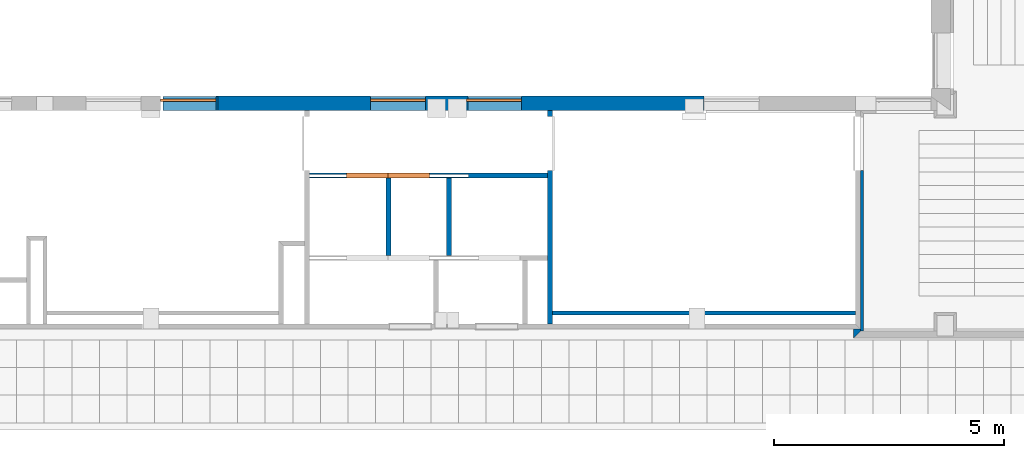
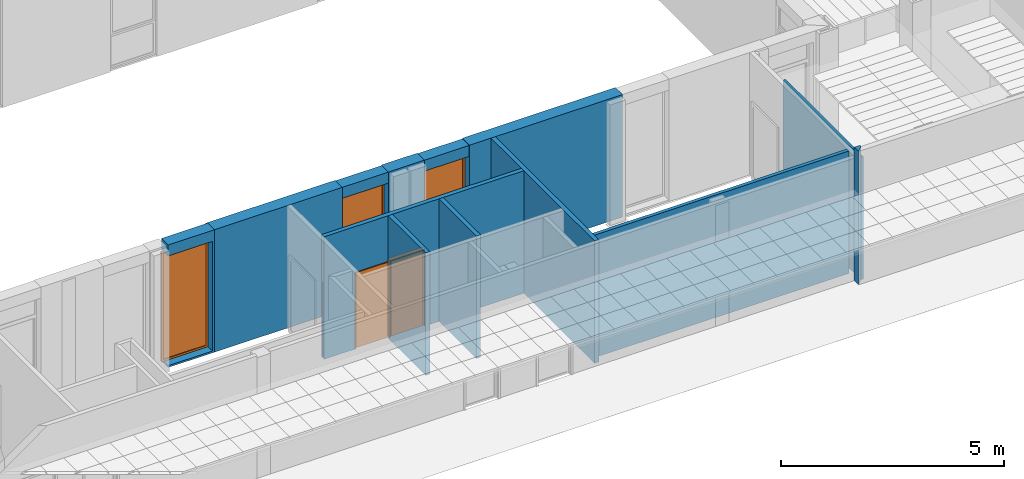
# One storey, part 30 of 60: 13 walls, 5 proxies, 6 openings.
"""IFC2X3 building model written with IfcOpenShell, lengths in millimetres."""

from ifc_helpers import new_model, entity, si_unit, converted_unit, derived_unit, money_unit, direction, frame, origin_with_axes, origin_2d_with_axis, place, context, subcontext, project, spatial, polyline, rectangle, outline, extrude, open_shell, faceted_brep, surface_model, source, transform, mapped, material, layer, layer_set, layer_usage, type_object, element, fill, save


model = new_model("IFC2X3")

# Units and contexts
model_context = context("Model", 3, precision=0.01, world=origin_with_axes(), true_north=direction((0.0, 1.0)))
body_context = subcontext(model_context, "Body", "Model", "MODEL_VIEW")
ifc_project = project(units=[si_unit("LENGTHUNIT", "METRE", prefix="MILLI"), si_unit("AREAUNIT", "SQUARE_METRE"), si_unit("VOLUMEUNIT", "CUBIC_METRE"), converted_unit("PLANEANGLEUNIT", "DEGREE", entity("IfcPlaneAngleMeasure", 0.0174532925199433), si_unit("PLANEANGLEUNIT", "RADIAN"), dimensions=[0, 0, 0, 0, 0, 0, 0]), money_unit("USD"), converted_unit("TIMEUNIT", "Year", entity("IfcTimeMeasure", 31557600.0), si_unit("TIMEUNIT", "SECOND"), dimensions=[0, 0, 1, 0, 0, 0, 0]), si_unit("MASSUNIT", "GRAM", prefix="KILO"), si_unit("THERMODYNAMICTEMPERATUREUNIT", "DEGREE_CELSIUS"), si_unit("LUMINOUSINTENSITYUNIT", "LUMEN"), si_unit("ENERGYUNIT", "JOULE", prefix="MEGA"), derived_unit("THERMALCONDUCTANCEUNIT", [(si_unit("POWERUNIT", "WATT"), 1), (si_unit("LENGTHUNIT", "METRE"), -1), (si_unit("THERMODYNAMICTEMPERATUREUNIT", "KELVIN"), -1)]), derived_unit("SPECIFICHEATCAPACITYUNIT", [(si_unit("ENERGYUNIT", "JOULE"), 1), (si_unit("MASSUNIT", "GRAM", prefix="KILO"), -1), (si_unit("THERMODYNAMICTEMPERATUREUNIT", "KELVIN"), -1)]), derived_unit("MASSDENSITYUNIT", [(si_unit("MASSUNIT", "GRAM", prefix="KILO"), 1), (si_unit("VOLUMEUNIT", "CUBIC_METRE"), -1)])], contexts=[model_context])

# Site, building, storey
site_placement = place(None, origin_with_axes())
site = spatial("IfcSite", under=ifc_project, at=site_placement, Name="Sitio", CompositionType="ELEMENT")
building_placement = place(site_placement, origin_with_axes())
building = spatial("IfcBuilding", under=site, at=building_placement, Name="Construcción", CompositionType="ELEMENT")
storey_placement = place(building_placement, frame((0.0, 0.0, 3650.0), z_axis=(0.0, 0.0, 1.0), x_axis=(1.0, 0.0, 0.0)))
storey = spatial("IfcBuildingStorey", under=building, at=storey_placement, Name="PLANTA 2ª", CompositionType="ELEMENT", Elevation=3650.0)

# Wall, opening, proxy
ifc_material_1 = material(Name="ARQ_AM246_Arrebossat_De_Guix")
ifc_layer_1 = layer(ifc_material_1, 20.0, ventilated="UNKNOWN")
ifc_material_2 = material(Name="ARQ_CE217_Gero")
ifc_layer_2 = layer(ifc_material_2, 110.0, ventilated="UNKNOWN")
ifc_material_3 = material(Name="ARQ_AI031_Aillament_Poliestireno expandido EPS")
ifc_layer_3 = layer(ifc_material_3, 100.0, ventilated="UNKNOWN")
ifc_material_4 = material(Name="ARQ_CE218_Ceramic")
ifc_layer_4 = layer(ifc_material_4, 50.0, ventilated="UNKNOWN")
ifc_layer_5 = layer(ifc_material_1, 20.0, ventilated="UNKNOWN")
ifc_layer_set_1 = layer_set([ifc_layer_1, ifc_layer_2, ifc_layer_3, ifc_layer_4, ifc_layer_5], Name="façana pati CR3 (ampit)")
ifc_layer_usage_1 = layer_usage(ifc_layer_set_1, "AXIS2", "POSITIVE", -300.0000000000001)
wall_type_1 = type_object("IfcWallType", Name="façana pati CR3 (ampit) 300", PredefinedType="NOTDEFINED")
wall_1_placement = place(storey_placement, frame((-17595.38048777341, -12338.97582371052, 0.0), z_axis=(0.0, 0.0, 1.0), x_axis=(-1.0, 0.0, 0.0)))
wall_1 = element("IfcWallStandardCase", 1, at=wall_1_placement, inside=storey, type_object=wall_type_1, material=ifc_layer_usage_1, Name="MS-201", context=body_context, shape_type="SweptSolid", body=[
    extrude(outline(polyline([(0.0, -300.0000000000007), (1194.999999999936, -300.0000000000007), (1194.999999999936, 0.0), (0.0, 0.0), (0.0, -300.0000000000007)])), origin_with_axes(), (0.0, 0.0, 1.0), 3350.0),
])
opening_1_placement = place(wall_1_placement, frame((645.728517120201, 0.0, 49.99999999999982), z_axis=(0.0, 0.0, 1.0), x_axis=(1.0, 0.0, 0.0)))
opening_1 = element("IfcOpeningElement", 2, at=opening_1_placement, cuts=wall_1, Name="V - 008", context=body_context, shape_type="SweptSolid", body=[
    extrude(rectangle(XDim=1200.000000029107, YDim=3000.0, at=origin_2d_with_axis()), frame((0.0, -250.0, 1500.0), z_axis=(0.0, -1.0, 0.0), x_axis=(-1.0, 0.0, 0.0)), (0.0, 0.0, -1.0), 550.0),
    extrude(rectangle(XDim=1200.000000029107, YDim=3000.0, at=origin_2d_with_axis()), frame((0.0, -250.0, 1500.0), z_axis=(0.0, 1.0, 0.0), x_axis=(-1.0, 0.0, 0.0)), (0.0, 0.0, -1.0), 350.0000000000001),
])
building_element_proxy_type_1 = type_object("IfcBuildingElementProxyType", Name="Ventana Vertical Multi-Faja 27", PredefinedType="NOTDEFINED")
shared_shape_1 = source(origin_with_axes(), body_context, "Body", "SurfaceModel", [
    faceted_brep([(-550.0000000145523, -50.00000000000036, 2950.0), (-550.0000000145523, 0.0, 2950.0), (-600.0000000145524, 0.0, 2950.0), (-600.0000000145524, -50.00000000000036, 2950.0), (-550.0000000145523, -50.00000000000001, 50.0), (-550.0000000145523, 0.0, 50.00000000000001), (-600.0000000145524, 0.0, 50.00000000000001), (-600.0000000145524, -50.00000000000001, 50.0)], [[[0, 1, 2, 3]], [[4, 5, 1, 0]], [[1, 5, 6, 2]], [[3, 2, 6, 7]], [[0, 3, 7, 4]], [[7, 6, 5, 4]]]),
    faceted_brep([(550.0000000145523, -50.00000000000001, 50.0), (550.0000000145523, 0.0, 50.00000000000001), (600.0000000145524, 0.0, 50.00000000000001), (600.0000000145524, -50.00000000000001, 50.0), (550.0000000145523, -50.00000000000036, 2950.0), (550.0000000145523, 0.0, 2950.0), (600.0000000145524, 0.0, 2950.0), (600.0000000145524, -50.00000000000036, 2950.0)], [[[0, 1, 2, 3]], [[4, 5, 1, 0]], [[1, 5, 6, 2]], [[3, 2, 6, 7]], [[0, 3, 7, 4]], [[7, 6, 5, 4]]]),
    faceted_brep([(550.0000000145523, -50.00000000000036, 2950.0), (550.0000000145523, 0.0, 2950.0), (600.0000000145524, 0.0, 2950.0), (600.0000000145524, -50.00000000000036, 2950.0), (-550.0000000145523, -50.00000000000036, 2950.0), (-550.0000000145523, 0.0, 2950.0), (-600.0000000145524, 0.0, 2950.0), (-600.0000000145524, 0.0, 3000.0), (600.0000000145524, 0.0, 3000.0), (600.0000000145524, -50.00000000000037, 3000.0), (-600.0000000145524, -50.00000000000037, 3000.0), (-600.0000000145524, -50.00000000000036, 2950.0)], [[[0, 1, 2, 3]], [[4, 5, 1, 0]], [[1, 5, 6, 7, 8, 2]], [[3, 2, 8, 9]], [[0, 3, 9, 10, 11, 4]], [[11, 6, 5, 4]], [[10, 7, 6, 11]], [[9, 8, 7, 10]]]),
    faceted_brep([(-550.0000000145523, -50.00000000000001, 50.0), (-550.0000000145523, 0.0, 50.00000000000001), (-600.0000000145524, 0.0, 50.00000000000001), (-600.0000000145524, -50.00000000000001, 50.0), (550.0000000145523, -50.00000000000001, 50.0), (550.0000000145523, 0.0, 50.00000000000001), (600.0000000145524, 0.0, 50.00000000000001), (600.0000000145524, 0.0, 0.0), (-600.0000000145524, 0.0, 0.0), (-600.0000000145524, -50.0, 0.0), (600.0000000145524, -50.0, 0.0), (600.0000000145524, -50.00000000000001, 50.0)], [[[0, 1, 2, 3]], [[4, 5, 1, 0]], [[1, 5, 6, 7, 8, 2]], [[3, 2, 8, 9]], [[0, 3, 9, 10, 11, 4]], [[11, 6, 5, 4]], [[10, 7, 6, 11]], [[9, 8, 7, 10]]]),
    surface_model("IfcShellBasedSurfaceModel", [(-550.0000000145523, -35.0, 49.99999999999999), (550.0000000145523, -35.0, 49.99999999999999), (550.0000000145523, -35.00000000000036, 2950.0), (-550.0000000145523, -35.00000000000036, 2950.0)], [open_shell([[[0, 1, 2, 3]]])]),
    surface_model("IfcShellBasedSurfaceModel", [(-550.0000000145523, -15.0, 49.99999999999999), (-550.0000000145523, -15.00000000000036, 2950.0), (550.0000000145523, -15.00000000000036, 2950.0), (550.0000000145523, -15.0, 49.99999999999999)], [open_shell([[[0, 1, 2, 3]]])]),
])
proxy_1_placement = place(opening_1_placement, frame((600.0000000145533, 0.0, 0.0), z_axis=(0.0, 0.0, 1.0), x_axis=(-1.0, 0.0, 0.0)))
proxy_1 = element("IfcBuildingElementProxy", 3, at=proxy_1_placement, inside=storey, type_object=building_element_proxy_type_1, Name="V - 008", context=body_context, shape_type="MappedRepresentation", body=[
    mapped(shared_shape_1, transform((600.0000000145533, 250.0, 0.0))),
])
fill(opening_1, proxy_1)

ifc_layer_usage_2 = layer_usage(ifc_layer_set_1, "AXIS2", "POSITIVE", -300.0000000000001)
wall_2_placement = place(storey_placement, frame((-11002.41799369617, -12338.97582371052, 0.0), z_axis=(0.0, 0.0, 1.0), x_axis=(-1.0, 0.0, 0.0)))
wall_2 = element("IfcWallStandardCase", 4, at=wall_2_placement, inside=storey, type_object=wall_type_1, material=ifc_layer_usage_2, Name="MS-201", context=body_context, shape_type="SweptSolid", body=[
    extrude(outline(polyline([(0.0, -300.0000000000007), (1194.999999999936, -300.0000000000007), (1194.999999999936, 0.0), (0.0, 0.0), (0.0, -300.0000000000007)])), origin_with_axes(), (0.0, 0.0, 1.0), 3350.0),
])
opening_2_placement = place(wall_2_placement, frame((594.9999999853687, 0.0, 49.99999999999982), z_axis=(0.0, 0.0, 1.0), x_axis=(1.0, 0.0, 0.0)))
opening_2 = element("IfcOpeningElement", 5, at=opening_2_placement, cuts=wall_2, Name="V - 008", context=body_context, shape_type="SweptSolid", body=[
    extrude(rectangle(XDim=1200.000000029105, YDim=3000.0, at=origin_2d_with_axis()), frame((0.0, -250.0, 1500.0), z_axis=(0.0, -1.0, 0.0), x_axis=(-1.0, 0.0, 0.0)), (0.0, 0.0, -1.0), 550.0),
    extrude(rectangle(XDim=1200.000000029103, YDim=3000.0, at=origin_2d_with_axis()), frame((0.0, -250.0, 1500.0), z_axis=(0.0, 1.0, 0.0), x_axis=(-1.0, 0.0, 0.0)), (0.0, 0.0, -1.0), 350.0000000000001),
])
proxy_2_placement = place(opening_2_placement, frame((600.0000000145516, 0.0, 0.0), z_axis=(0.0, 0.0, 1.0), x_axis=(-1.0, 0.0, 0.0)))
proxy_2 = element("IfcBuildingElementProxy", 6, at=proxy_2_placement, inside=storey, type_object=building_element_proxy_type_1, Name="V - 008", context=body_context, shape_type="MappedRepresentation", body=[
    mapped(shared_shape_1, transform((600.0000000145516, 250.0, 0.0))),
])
fill(opening_2, proxy_2)

ifc_layer_usage_3 = layer_usage(ifc_layer_set_1, "AXIS2", "POSITIVE", -300.0000000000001)
wall_3_placement = place(storey_placement, frame((-13091.10900490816, -12338.97582371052, 0.0), z_axis=(0.0, 0.0, 1.0), x_axis=(-1.0, 0.0, 0.0)))
wall_3 = element("IfcWallStandardCase", 7, at=wall_3_placement, inside=storey, type_object=wall_type_1, material=ifc_layer_usage_3, Name="MS-201", context=body_context, shape_type="SweptSolid", body=[
    extrude(outline(polyline([(0.0, -300.0000000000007), (1194.999999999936, -300.0000000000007), (1194.999999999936, 0.0), (0.0, 0.0), (0.0, -300.0000000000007)])), origin_with_axes(), (0.0, 0.0, 1.0), 3350.0),
])
opening_3_placement = place(wall_3_placement, frame((594.9999999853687, 0.0, 49.99999999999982), z_axis=(0.0, 0.0, 1.0), x_axis=(1.0, 0.0, 0.0)))
opening_3 = element("IfcOpeningElement", 8, at=opening_3_placement, cuts=wall_3, Name="V - 008", context=body_context, shape_type="SweptSolid", body=[
    extrude(rectangle(XDim=1200.000000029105, YDim=3000.0, at=origin_2d_with_axis()), frame((0.0, -250.0, 1500.0), z_axis=(0.0, -1.0, 0.0), x_axis=(-1.0, 0.0, 0.0)), (0.0, 0.0, -1.0), 550.0),
    extrude(rectangle(XDim=1200.000000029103, YDim=3000.0, at=origin_2d_with_axis()), frame((0.0, -250.0, 1500.0), z_axis=(0.0, 1.0, 0.0), x_axis=(-1.0, 0.0, 0.0)), (0.0, 0.0, -1.0), 350.0000000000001),
])
proxy_3_placement = place(opening_3_placement, frame((600.0000000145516, 0.0, 0.0), z_axis=(0.0, 0.0, 1.0), x_axis=(-1.0, 0.0, 0.0)))
proxy_3 = element("IfcBuildingElementProxy", 9, at=proxy_3_placement, inside=storey, type_object=building_element_proxy_type_1, Name="V - 008", context=body_context, shape_type="MappedRepresentation", body=[
    mapped(shared_shape_1, transform((600.0000000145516, 250.0, 0.0))),
])
fill(opening_3, proxy_3)

# Walls
ifc_layer_6 = layer(ifc_material_2, 150.0, ventilated="UNKNOWN")
ifc_layer_7 = layer(ifc_material_3, 100.0, ventilated="UNKNOWN")
ifc_layer_8 = layer(ifc_material_4, 50.0, ventilated="UNKNOWN")
ifc_layer_9 = layer(ifc_material_1, 20.0, ventilated="UNKNOWN")
ifc_layer_set_2 = layer_set([ifc_layer_6, ifc_layer_7, ifc_layer_8, ifc_layer_9], Name="façana pati CR3")
ifc_layer_usage_4 = layer_usage(ifc_layer_set_2, "AXIS2", "POSITIVE", -320.0)
wall_type_2 = type_object("IfcWallType", Name="façana pati CR3 320", PredefinedType="NOTDEFINED")
wall_4_placement = place(storey_placement, frame((-7036.109004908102, -12338.97582371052, 0.0), z_axis=(0.0, 0.0, 1.0), x_axis=(-1.0, 0.0, 0.0)))
element("IfcWallStandardCase", 10, at=wall_4_placement, inside=storey, type_object=wall_type_2, material=ifc_layer_usage_4, Name="MS-201", context=body_context, shape_type="SweptSolid", body=[
    extrude(outline(polyline([(0.0, -320.0000000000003), (3961.308988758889, -320.0000000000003), (3961.308988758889, 0.0), (0.0, 0.0), (0.0, -320.0000000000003)])), origin_with_axes(), (0.0, 0.0, 1.0), 3350.0),
])
ifc_layer_usage_5 = layer_usage(ifc_layer_set_2, "AXIS2", "POSITIVE", -320.0)
wall_5_placement = place(storey_placement, frame((-12161.1090049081, -12338.97582371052, 0.0), z_axis=(0.0, 0.0, 1.0), x_axis=(-1.0, 0.0, 0.0)))
element("IfcWallStandardCase", 11, at=wall_5_placement, inside=storey, type_object=wall_type_2, material=ifc_layer_usage_5, Name="MS-201", context=body_context, shape_type="SweptSolid", body=[
    extrude(outline(polyline([(0.0, -320.0000000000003), (930.0000000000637, -320.0000000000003), (930.0000000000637, 0.0), (0.0, 0.0), (0.0, -320.0000000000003)])), origin_with_axes(), (0.0, 0.0, 1.0), 3350.0),
])
ifc_layer_usage_6 = layer_usage(ifc_layer_set_2, "AXIS2", "POSITIVE", -320.0)
wall_6_placement = place(storey_placement, frame((-14286.1090049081, -12338.97582371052, 0.0), z_axis=(0.0, 0.0, 1.0), x_axis=(-1.0, 0.0, 0.0)))
element("IfcWallStandardCase", 12, at=wall_6_placement, inside=storey, type_object=wall_type_2, material=ifc_layer_usage_6, Name="MS-201", context=body_context, shape_type="SweptSolid", body=[
    extrude(outline(polyline([(0.0, -320.0000000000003), (3355.000000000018, -320.0000000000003), (3355.000000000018, 0.0), (0.0, 0.0), (0.0, -320.0000000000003)])), origin_with_axes(), (0.0, 0.0, 1.0), 3350.0),
])
ifc_material_5 = material(Name="ARQ_FU093_Panellat_HPL")
ifc_layer_10 = layer(ifc_material_5, 6.0, ventilated="UNKNOWN")
ifc_material_6 = material(Name="ARQ_EN271_Camara_Aire")
ifc_layer_11 = layer(ifc_material_6, 6.0, ventilated="UNKNOWN")
ifc_material_7 = material(Name="Panel de Yeso Laminado")
ifc_layer_12 = layer(ifc_material_7, 13.0, ventilated="UNKNOWN")
ifc_material_8 = material(Name="ARQ_AI033_Aillament_Llana_De_Roca")
ifc_layer_13 = layer(ifc_material_8, 40.0, ventilated="UNKNOWN")
ifc_layer_set_3 = layer_set([ifc_layer_10, ifc_layer_11, ifc_layer_12, ifc_layer_13], Name="Pladur Tras 40 / 1N +HPL")
ifc_layer_usage_7 = layer_usage(ifc_layer_set_3, "AXIS2", "POSITIVE", 0.0)
wall_type_3 = type_object("IfcWallType", Name="Pladur Tras 40 / 1N +HPL 65", PredefinedType="NOTDEFINED")
wall_7_placement = place(storey_placement, frame((-3573.894203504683, -17276.97565901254, 0.0), z_axis=(0.0, 0.0, 1.0), x_axis=(0.0, 1.0, 0.0)))
element("IfcWallStandardCase", 13, at=wall_7_placement, inside=storey, type_object=wall_type_3, material=ifc_layer_usage_7, Name="MS-212", context=body_context, shape_type="SweptSolid", body=[
    extrude(outline(polyline([(146.0000000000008, 0.0), (3629.999670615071, 0.0), (3629.999670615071, 64.99999999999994), (146.0000000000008, 64.99999999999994), (146.0000000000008, 0.0)])), origin_with_axes(), (0.0, 0.0, 1.0), 3350.0),
])

# Wall, opening
ifc_layer_14 = layer(ifc_material_1, 10.0, ventilated="UNKNOWN")
ifc_layer_15 = layer(ifc_material_2, 90.0, ventilated="UNKNOWN")
ifc_layer_16 = layer(ifc_material_1, 10.0, ventilated="UNKNOWN")
ifc_layer_set_4 = layer_set([ifc_layer_14, ifc_layer_15, ifc_layer_16], Name="CR Enva Totxana")
ifc_layer_usage_8 = layer_usage(ifc_layer_set_4, "AXIS2", "POSITIVE", -110.0)
wall_type_4 = type_object("IfcWallType", Name="CR Enva Totxana 110", PredefinedType="NOTDEFINED")
wall_8_placement = place(storey_placement, frame((-10437.89402518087, -17083.97582371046, 0.0), z_axis=(0.0, 0.0, 1.0), x_axis=(0.0, 1.0, 0.0)))
wall_8 = element("IfcWallStandardCase", 14, at=wall_8_placement, inside=storey, type_object=wall_type_4, material=ifc_layer_usage_8, Name="MS-201", context=body_context, shape_type="SweptSolid", body=[
    extrude(outline(polyline([(109.9999999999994, -109.9999999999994), (4744.999999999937, -109.9999999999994), (4744.999999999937, 0.0), (109.9999999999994, 0.0), (109.9999999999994, -109.9999999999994)])), origin_with_axes(), (0.0, 0.0, 1.0), 3350.0),
])
opening_4_placement = place(wall_8_placement, frame((4023.999835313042, 0.0, 0.0), z_axis=(0.0, 0.0, 1.0), x_axis=(1.0, 0.0, 0.0)))
element("IfcOpeningElement", 15, at=opening_4_placement, cuts=wall_8, Name="PF-13D", context=body_context, shape_type="SweptSolid", body=[
    extrude(rectangle(XDim=1174.000000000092, YDim=2100.0, at=origin_2d_with_axis()), frame((0.0, -109.9999999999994, 1050.0), z_axis=(0.0, 1.0, 0.0), x_axis=(-1.0, 0.0, 0.0)), (0.0, 0.0, 1.0), 329.9999999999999),
])

# Wall
ifc_layer_usage_9 = layer_usage(ifc_layer_set_4, "AXIS2", "POSITIVE", -110.0)
wall_9_placement = place(storey_placement, frame((-13948.89521118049, -15599.37688161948, 0.0), z_axis=(0.0, 0.0, 1.0), x_axis=(0.0, 1.0, 0.0)))
element("IfcWallStandardCase", 16, at=wall_9_placement, inside=storey, type_object=wall_type_4, material=ifc_layer_usage_9, Name="MS-201", context=body_context, shape_type="SweptSolid", body=[
    extrude(outline(polyline([(109.9999999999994, -109.9999999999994), (1789.944777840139, -109.9999999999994), (1789.944777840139, 0.0), (109.9999999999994, 0.0), (109.9999999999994, -109.9999999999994)])), origin_with_axes(), (0.0, 0.0, 1.0), 3350.0),
])

# Wall, openings, proxies
ifc_layer_usage_10 = layer_usage(ifc_layer_set_4, "AXIS2", "POSITIVE", -110.0)
wall_10_placement = place(storey_placement, frame((-10437.89402518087, -13809.43210377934, 0.0), z_axis=(0.0, 0.0, 1.0), x_axis=(-1.0, 0.0, 0.0)))
wall_10 = element("IfcWallStandardCase", 17, at=wall_10_placement, inside=storey, type_object=wall_type_4, material=ifc_layer_usage_10, Name="MS-201", context=body_context, shape_type="SweptSolid", body=[
    extrude(outline(polyline([(0.0, -109.9999999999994), (5168.214979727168, -109.9999999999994), (5168.214979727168, 0.0), (0.0, 0.0), (0.0, -109.9999999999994)])), origin_with_axes(), (0.0, 0.0, 1.0), 3350.0),
])
opening_5_placement = place(wall_10_placement, frame((3912.625216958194, 0.0, 0.0), z_axis=(0.0, 0.0, 1.0), x_axis=(1.0, 0.0, 0.0)))
opening_5 = element("IfcOpeningElement", 18, at=opening_5_placement, cuts=wall_10, Name="PF-14D", context=body_context, shape_type="SweptSolid", body=[
    extrude(rectangle(XDim=899.9999999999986, YDim=2100.0, at=origin_2d_with_axis()), frame((0.0, 109.9999999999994, 1050.0), z_axis=(0.0, -1.0, 0.0), x_axis=(1.0, 0.0, 0.0)), (0.0, 0.0, 1.0), 329.9999999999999),
    extrude(rectangle(XDim=845.0000000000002, YDim=2080.0, at=origin_2d_with_axis()), frame((872.4999999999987, -29.99999999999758, 1040.0), z_axis=(0.0, -1.0, 0.0), x_axis=(1.0, 0.0, 0.0)), (0.0, 0.0, 1.0), 50.0),
])
opening_6_placement = place(wall_10_placement, frame((3012.625216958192, 0.0, 0.0), z_axis=(0.0, 0.0, 1.0), x_axis=(1.0, 0.0, 0.0)))
opening_6 = element("IfcOpeningElement", 19, at=opening_6_placement, cuts=wall_10, Name="PF-14D", context=body_context, shape_type="SweptSolid", body=[
    extrude(rectangle(XDim=899.9999999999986, YDim=2100.0, at=origin_2d_with_axis()), frame((0.0, 109.9999999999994, 1050.0), z_axis=(0.0, 1.0, 0.0), x_axis=(-1.0, 0.0, 0.0)), (0.0, 0.0, -1.0), 329.9999999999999),
    extrude(rectangle(XDim=845.0000000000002, YDim=2080.0, at=origin_2d_with_axis()), frame((-872.4999999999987, -29.99999999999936, 1040.0), z_axis=(0.0, 1.0, 0.0), x_axis=(-1.0, 0.0, 0.0)), (0.0, 0.0, -1.0), 50.0),
])
building_element_proxy_type_2 = type_object("IfcBuildingElementProxyType", Name="Puerta Corredera Empotrada 27", PredefinedType="NOTDEFINED")
shared_shape_2 = source(origin_with_axes(), body_context, "Body", "Brep", [
    faceted_brep([(450.0, 0.0, 0.0), (450.0, -110.0, 0.0), (430.0, -110.0, 0.0), (430.0, 0.0, 0.0), (450.0, 0.0, 2080.0), (450.0, -110.0, 2080.0), (430.0, -110.0, 2080.0), (430.0, 0.0, 2080.0)], [[[0, 1, 2, 3]], [[4, 5, 1, 0]], [[1, 5, 6, 2]], [[3, 2, 6, 7]], [[0, 3, 7, 4]], [[7, 6, 5, 4]]]),
    faceted_brep([(-430.0, -30.00000000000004, 2080.0), (-430.0, 0.0, 2080.0), (-450.0, 0.0, 2080.0), (-450.0, -30.00000000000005, 2080.0), (-430.0, -30.00000000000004, 0.0), (-430.0, 0.0, 0.0), (-450.0, 0.0, 0.0), (-450.0, -30.00000000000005, 0.0)], [[[0, 1, 2, 3]], [[4, 5, 1, 0]], [[5, 6, 2, 1]], [[3, 2, 6, 7]], [[7, 4, 0, 3]], [[7, 6, 5, 4]]]),
    faceted_brep([(-450.0, -80.00000000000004, 0.0), (-450.0, -110.0, 0.0), (-450.0, -110.0, 2080.0), (-450.0, -80.00000000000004, 2080.0), (-430.0, -80.00000000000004, 0.0), (-430.0, -110.0, 0.0), (-430.0, -110.0, 2080.0), (-430.0, -80.00000000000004, 2080.0)], [[[0, 1, 2, 3]], [[4, 5, 1, 0]], [[2, 1, 5, 6]], [[3, 2, 6, 7]], [[7, 4, 0, 3]], [[7, 6, 5, 4]]]),
    faceted_brep([(450.0, 0.0, 2100.0), (450.0, -110.0, 2100.0), (450.0, -110.0, 2080.0), (450.0, 0.0, 2080.0), (-450.0, 0.0, 2100.0), (-450.0, -110.0, 2100.0), (-450.0, -110.0, 2080.0), (-430.0, -110.0, 2080.0), (430.0, -110.0, 2080.0), (430.0, 0.0, 2080.0), (-430.0, 0.0, 2080.0), (-450.0, 0.0, 2080.0)], [[[0, 1, 2, 3]], [[4, 5, 1, 0]], [[1, 5, 6, 7, 8, 2]], [[3, 2, 8, 9]], [[0, 3, 9, 10, 11, 4]], [[11, 6, 5, 4]], [[10, 7, 6, 11]], [[9, 8, 7, 10]]]),
    faceted_brep([(-430.0, -34.99999999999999, 0.0), (430.0, -34.99999999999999, 0.0), (430.0, -74.99999999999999, 0.0), (-430.0, -74.99999999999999, 0.0), (-430.0, -35.00000000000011, 2080.0), (430.0, -35.00000000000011, 2080.0), (430.0, -75.00000000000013, 2080.0), (-430.0, -75.00000000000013, 2080.0)], [[[0, 1, 2, 3]], [[0, 4, 5, 1]], [[1, 5, 6, 2]], [[3, 2, 6, 7]], [[4, 0, 3, 7]], [[5, 4, 7, 6]]]),
])
proxy_4_placement = place(opening_6_placement, frame((-449.9999999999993, 0.0, 0.0), z_axis=(0.0, 0.0, 1.0), x_axis=(1.0, 0.0, 0.0)))
proxy_4 = element("IfcBuildingElementProxy", 20, at=proxy_4_placement, inside=storey, type_object=building_element_proxy_type_2, Name="PF-14D", context=body_context, shape_type="MappedRepresentation", body=[
    mapped(shared_shape_2, transform((449.9999999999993, 0.0, 0.0))),
])
fill(opening_6, proxy_4)
shared_shape_3 = source(origin_with_axes(), body_context, "Body", "Brep", [
    faceted_brep([(-450.0, 0.0, 0.0), (-430.0, 0.0, 0.0), (-430.0, -110.0, 0.0), (-450.0, -110.0, 0.0), (-450.0, 0.0, 2080.0), (-430.0, 0.0, 2080.0), (-430.0, -110.0, 2080.0), (-450.0, -110.0, 2080.0)], [[[0, 1, 2, 3]], [[0, 4, 5, 1]], [[1, 5, 6, 2]], [[3, 2, 6, 7]], [[4, 0, 3, 7]], [[5, 4, 7, 6]]]),
    faceted_brep([(430.0, -30.00000000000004, 2080.0), (450.0, -30.00000000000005, 2080.0), (450.0, 0.0, 2080.0), (430.0, 0.0, 2080.0), (450.0, -30.00000000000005, 0.0), (430.0, -30.00000000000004, 0.0), (450.0, 0.0, 0.0), (430.0, 0.0, 0.0)], [[[0, 1, 2, 3]], [[4, 1, 0, 5]], [[1, 4, 6, 2]], [[7, 3, 2, 6]], [[5, 0, 3, 7]], [[4, 5, 7, 6]]]),
    faceted_brep([(450.0, -80.00000000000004, 0.0), (450.0, -80.00000000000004, 2080.0), (450.0, -110.0, 2080.0), (450.0, -110.0, 0.0), (430.0, -80.00000000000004, 2080.0), (430.0, -80.00000000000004, 0.0), (430.0, -110.0, 2080.0), (430.0, -110.0, 0.0)], [[[0, 1, 2, 3]], [[4, 1, 0, 5]], [[1, 4, 6, 2]], [[2, 6, 7, 3]], [[5, 0, 3, 7]], [[4, 5, 7, 6]]]),
    faceted_brep([(-450.0, 0.0, 2100.0), (-450.0, 0.0, 2080.0), (-450.0, -110.0, 2080.0), (-450.0, -110.0, 2100.0), (450.0, 0.0, 2100.0), (450.0, 0.0, 2080.0), (430.0, 0.0, 2080.0), (-430.0, 0.0, 2080.0), (-430.0, -110.0, 2080.0), (430.0, -110.0, 2080.0), (450.0, -110.0, 2080.0), (450.0, -110.0, 2100.0)], [[[0, 1, 2, 3]], [[0, 4, 5, 6, 7, 1]], [[1, 7, 8, 2]], [[3, 2, 8, 9, 10, 11]], [[4, 0, 3, 11]], [[5, 4, 11, 10]], [[6, 5, 10, 9]], [[7, 6, 9, 8]]]),
    faceted_brep([(430.0, -34.99999999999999, 0.0), (430.0, -74.99999999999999, 0.0), (-430.0, -74.99999999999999, 0.0), (-430.0, -34.99999999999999, 0.0), (430.0, -35.00000000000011, 2080.0), (430.0, -75.00000000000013, 2080.0), (-430.0, -75.00000000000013, 2080.0), (-430.0, -35.00000000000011, 2080.0)], [[[0, 1, 2, 3]], [[4, 5, 1, 0]], [[1, 5, 6, 2]], [[3, 2, 6, 7]], [[0, 3, 7, 4]], [[7, 6, 5, 4]]]),
])
proxy_5_placement = place(opening_5_placement, frame((-449.9999999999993, 0.0, 0.0), z_axis=(0.0, 0.0, 1.0), x_axis=(1.0, 0.0, 0.0)))
proxy_5 = element("IfcBuildingElementProxy", 21, at=proxy_5_placement, inside=storey, type_object=building_element_proxy_type_2, Name="PF-14D", context=body_context, shape_type="MappedRepresentation", body=[
    mapped(shared_shape_3, transform((449.9999999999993, 0.0, 0.0))),
])
fill(opening_5, proxy_5)

# Walls
ifc_layer_usage_11 = layer_usage(ifc_layer_set_4, "AXIS2", "POSITIVE", -110.0)
wall_11_placement = place(storey_placement, frame((-12634.1909530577, -15599.37688161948, 0.0), z_axis=(0.0, 0.0, 1.0), x_axis=(0.0, 1.0, 0.0)))
element("IfcWallStandardCase", 22, at=wall_11_placement, inside=storey, type_object=wall_type_4, material=ifc_layer_usage_11, Name="MS-201", context=body_context, shape_type="SweptSolid", body=[
    extrude(outline(polyline([(109.9999999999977, -109.9999999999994), (1789.944777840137, -109.9999999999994), (1789.944777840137, 0.0), (109.9999999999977, 0.0), (109.9999999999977, -109.9999999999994)])), origin_with_axes(), (0.0, 0.0, 1.0), 3350.0),
])
ifc_layer_17 = layer(ifc_material_5, 6.0, ventilated="UNKNOWN")
ifc_layer_18 = layer(ifc_material_6, 6.0, ventilated="UNKNOWN")
ifc_layer_19 = layer(ifc_material_7, 13.0, ventilated="UNKNOWN")
ifc_layer_20 = layer(ifc_material_7, 13.0, ventilated="UNKNOWN")
ifc_layer_21 = layer(ifc_material_8, 70.0, ventilated="UNKNOWN")
ifc_layer_22 = layer(ifc_material_7, 13.0, ventilated="UNKNOWN")
ifc_layer_23 = layer(ifc_material_7, 13.0, ventilated="UNKNOWN")
ifc_layer_24 = layer(ifc_material_6, 6.0, ventilated="UNKNOWN")
ifc_layer_25 = layer(ifc_material_5, 6.0, ventilated="UNKNOWN")
ifc_layer_set_5 = layer_set([ifc_layer_17, ifc_layer_18, ifc_layer_19, ifc_layer_20, ifc_layer_21, ifc_layer_22, ifc_layer_23, ifc_layer_24, ifc_layer_25], Name="CR Pladur 70 HPL 2 cares")
ifc_layer_usage_12 = layer_usage(ifc_layer_set_5, "AXIS2", "POSITIVE", 0.0)
wall_type_5 = type_object("IfcWallType", Name="CR Pladur 70 HPL 2 cares 146", PredefinedType="NOTDEFINED")
wall_12_placement = place(storey_placement, frame((-3784.894203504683, -17083.97582371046, 0.0), z_axis=(0.0, 0.0, 1.0), x_axis=(0.0, -1.0, 0.0)))
element("IfcWallStandardCase", 23, at=wall_12_placement, inside=storey, type_object=wall_type_5, material=ifc_layer_usage_12, Name="MS-211", context=body_context, shape_type="SweptSolid", body=[
    extrude(outline(polyline([(0.0, 0.0), (192.999835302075, 0.0), (46.99983530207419, 145.9999999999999), (0.0, 145.9999999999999), (0.0, 0.0)])), origin_with_axes(), (0.0, 0.0, 1.0), 3650.0),
])
ifc_layer_26 = layer(ifc_material_1, 10.0, ventilated="UNKNOWN")
ifc_layer_27 = layer(ifc_material_2, 70.0, ventilated="UNKNOWN")
ifc_layer_28 = layer(ifc_material_1, 10.0, ventilated="UNKNOWN")
ifc_layer_set_6 = layer_set([ifc_layer_26, ifc_layer_27, ifc_layer_28], Name="CR Enva Totxaneta")
ifc_layer_usage_13 = layer_usage(ifc_layer_set_6, "AXIS2", "POSITIVE", 0.0)
wall_type_6 = type_object("IfcWallType", Name="CR Enva Totxaneta 90", PredefinedType="NOTDEFINED")
wall_13_placement = place(storey_placement, frame((-3748.894203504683, -16690.97598839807, 0.0), z_axis=(0.0, 0.0, 1.0), x_axis=(-1.0, 0.0, 0.0)))
element("IfcWallStandardCase", 24, at=wall_13_placement, inside=storey, type_object=wall_type_6, material=ifc_layer_usage_13, Name="MS-201", context=body_context, shape_type="SweptSolid", body=[
    extrude(outline(polyline([(0.0, 0.0), (6578.999821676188, 0.0), (6578.999821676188, 89.99999999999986), (0.0, 89.99999999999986), (0.0, 0.0)])), origin_with_axes(), (0.0, 0.0, 1.0), 3350.0),
])

save(model, "model.ifc")
